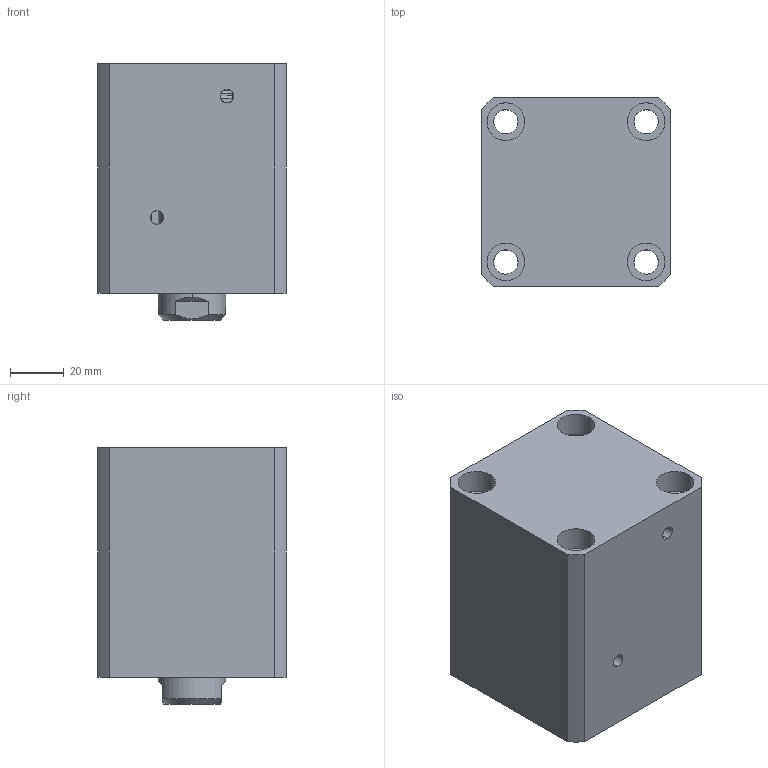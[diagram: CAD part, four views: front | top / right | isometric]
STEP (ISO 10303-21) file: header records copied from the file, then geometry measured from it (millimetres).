
FILE_DESCRIPTION (( 'STEP AP214' ), '1' );
FILE_NAME ('chtb-sdma40x30n_asm.STEP', '2018-06-06T07:37:40', ( 'Windows' ), ( 'Microsoft' ), 'SwSTEP 2.0', 'SolidWorks 2015', '' );
FILE_SCHEMA (( 'AUTOMOTIVE_DESIGN' ));
Length unit declared in the file: millimetre
Products named in the file (4): CHTB-SDMA40X30NBT; CHTB-SD40X30NHSG; CHTB-SD40QG; chtb-sdma40x30n_asm
Assembly tree (3 placements, depth 2):
  chtb-sdma40x30n_asm
    CHTB-SD40QG
    CHTB-SD40X30NHSG
    CHTB-SDMA40X30NBT
Bounding box: 70 x 70 x 95 mm (x, y, z)
Volume: 355649.9 mm3; surface area: 77442.6 mm2
Topology: 3 solids, 3 shells, 157 faces, 413 edges, 274 vertices
Faces by surface type: cylinder 84, plane 36, bspline 14, torus 14, cone 9
Entity records: 10139 total; most frequent: CARTESIAN_POINT 6157, ORIENTED_EDGE 814, DIRECTION 768, EDGE_CURVE 407, AXIS2_PLACEMENT_3D 326, VERTEX_POINT 274, EDGE_LOOP 193, CIRCLE 177
